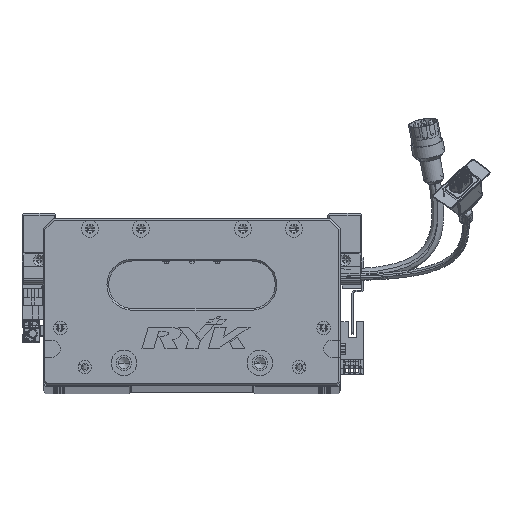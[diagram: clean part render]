
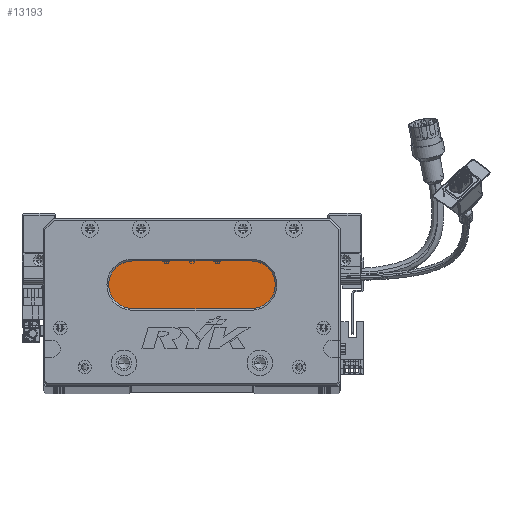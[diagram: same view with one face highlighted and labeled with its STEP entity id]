
A CAD part, top view. The second image highlights one B-rep face of the part: STEP entity #13193.
In plain terms, the highlighted planar face has unit normal (0, 0, 1) as drawn and (0, 0, -1) by its records, which use the part's own axes.
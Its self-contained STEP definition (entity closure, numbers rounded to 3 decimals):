
#1041 = EDGE_CURVE ( 'NONE', #16660, #98134, #27099, .T. ) ;
#9545 = DIRECTION ( 'NONE',  ( -1., 0., 0. ) ) ;
#9752 = CARTESIAN_POINT ( 'NONE',  ( 122.5, 73., 18. ) ) ;
#13193 = ADVANCED_FACE ( 'NONE', ( #55852 ), #96938, .T. ) ;
#15307 = CARTESIAN_POINT ( 'NONE',  ( 122.5, 45., 18. ) ) ;
#16310 = DIRECTION ( 'NONE',  ( 0., 0., -1. ) ) ;
#16660 = VERTEX_POINT ( 'NONE', #68567 ) ;
#20343 = DIRECTION ( 'NONE',  ( 0., 0., -1. ) ) ;
#21722 = EDGE_CURVE ( 'NONE', #98134, #62420, #91312, .T. ) ;
#24978 = CARTESIAN_POINT ( 'NONE',  ( 52.5, 59., 18. ) ) ;
#27099 = LINE ( 'NONE', #75458, #77192 ) ;
#28532 = DIRECTION ( 'NONE',  ( 1., 0., 0. ) ) ;
#30997 = CARTESIAN_POINT ( 'NONE',  ( 122.5, 59., 18. ) ) ;
#36701 = LINE ( 'NONE', #44144, #46934 ) ;
#40020 = DIRECTION ( 'NONE',  ( 0., 0., -1. ) ) ;
#41694 = ORIENTED_EDGE ( 'NONE', *, *, #122020, .T. ) ;
#44144 = CARTESIAN_POINT ( 'NONE',  ( 122.5, 45., 18. ) ) ;
#44545 = DIRECTION ( 'NONE',  ( -1., 0., 0. ) ) ;
#46465 = CARTESIAN_POINT ( 'NONE',  ( 52.5, 59., 18. ) ) ;
#46934 = VECTOR ( 'NONE', #44545, 1000. ) ;
#48287 = EDGE_CURVE ( 'NONE', #62420, #52675, #36701, .T. ) ;
#50356 = AXIS2_PLACEMENT_3D ( 'NONE', #24978, #16310, #63183 ) ;
#50714 = AXIS2_PLACEMENT_3D ( 'NONE', #46465, #112474, #9545 ) ;
#52675 = VERTEX_POINT ( 'NONE', #62473 ) ;
#55852 = FACE_OUTER_BOUND ( 'NONE', #116276, .T. ) ;
#58677 = ORIENTED_EDGE ( 'NONE', *, *, #48287, .T. ) ;
#62420 = VERTEX_POINT ( 'NONE', #15307 ) ;
#62473 = CARTESIAN_POINT ( 'NONE',  ( 52.5, 45., 18. ) ) ;
#63183 = DIRECTION ( 'NONE',  ( -1., 0., 0. ) ) ;
#63849 = VERTEX_POINT ( 'NONE', #117055 ) ;
#67203 = DIRECTION ( 'NONE',  ( -1., 0., 0. ) ) ;
#68567 = CARTESIAN_POINT ( 'NONE',  ( 52.5, 73., 18. ) ) ;
#75458 = CARTESIAN_POINT ( 'NONE',  ( 122.5, 73., 18. ) ) ;
#77192 = VECTOR ( 'NONE', #28532, 1000. ) ;
#77941 = DIRECTION ( 'NONE',  ( -1., 0., 0. ) ) ;
#78052 = AXIS2_PLACEMENT_3D ( 'NONE', #30997, #40020, #67203 ) ;
#80712 = ORIENTED_EDGE ( 'NONE', *, *, #21722, .T. ) ;
#86633 = EDGE_CURVE ( 'NONE', #63849, #16660, #103195, .T. ) ;
#91090 = CIRCLE ( 'NONE', #50714, 14. ) ;
#91312 = CIRCLE ( 'NONE', #103625, 14. ) ;
#96938 = PLANE ( 'NONE',  #78052 ) ;
#98134 = VERTEX_POINT ( 'NONE', #9752 ) ;
#100467 = ORIENTED_EDGE ( 'NONE', *, *, #86633, .T. ) ;
#103195 = CIRCLE ( 'NONE', #50356, 14. ) ;
#103625 = AXIS2_PLACEMENT_3D ( 'NONE', #106367, #20343, #77941 ) ;
#106367 = CARTESIAN_POINT ( 'NONE',  ( 122.5, 59., 18. ) ) ;
#112474 = DIRECTION ( 'NONE',  ( 0., 0., -1. ) ) ;
#113102 = ORIENTED_EDGE ( 'NONE', *, *, #1041, .T. ) ;
#116276 = EDGE_LOOP ( 'NONE', ( #80712, #58677, #41694, #100467, #113102 ) ) ;
#117055 = CARTESIAN_POINT ( 'NONE',  ( 38.5, 59., 18. ) ) ;
#122020 = EDGE_CURVE ( 'NONE', #52675, #63849, #91090, .T. ) ;
